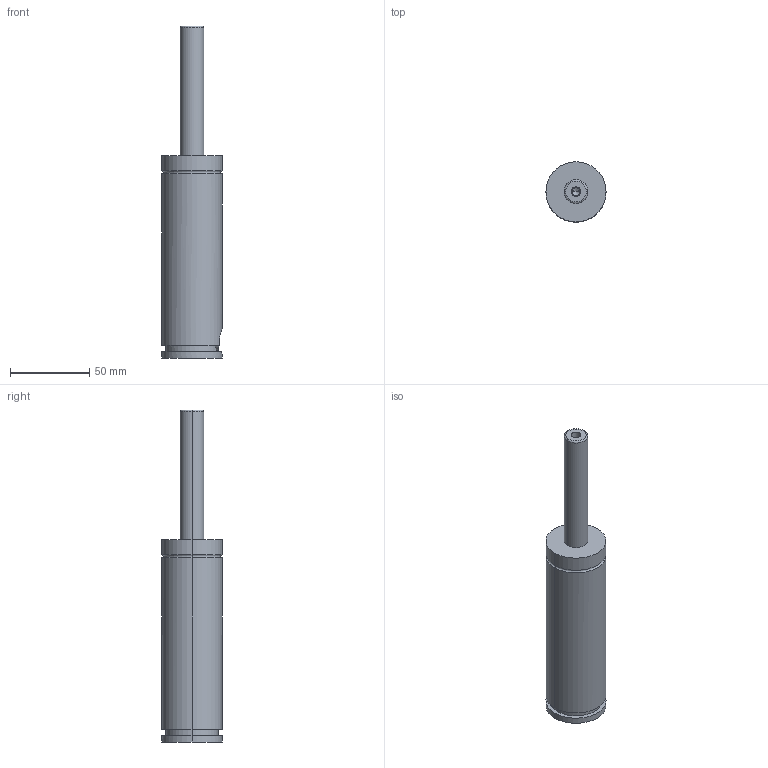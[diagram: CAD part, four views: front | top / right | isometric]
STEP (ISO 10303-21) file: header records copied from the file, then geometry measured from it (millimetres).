
FILE_DESCRIPTION(/* description */ (''),/* implementation_level */ '2;1');
FILE_NAME(/* name */ '3d_gse38-80_03882_r00.stp',/* time_stamp */ '2011-01-10T14:15:19+09:00',/* author */ ('MISUMI'),/* organization */ (''),/* preprocessor_version */ 'ST-DEVELOPER v11',/* originating_system */ 'UGS - NX 5.0',/* authorisation */ '');
FILE_SCHEMA (('CONFIG_CONTROL_DESIGN'));
Length unit declared in the file: millimetre
Products named in the file (1): 3d_gse38-80_03882_r00
Bounding box: 38 x 38 x 210 mm (x, y, z)
Volume: 156585.7 mm3; surface area: 23122.6 mm2
Topology: 1 solids, 1 shells, 57 faces, 125 edges, 79 vertices
Faces by surface type: cylinder 26, plane 21, cone 6, torus 4
Entity records: 1669 total; most frequent: DIRECTION 297, CARTESIAN_POINT 286, ORIENTED_EDGE 246, EDGE_CURVE 123, AXIS2_PLACEMENT_3D 122, VERTEX_POINT 79, EDGE_LOOP 68, CIRCLE 64
